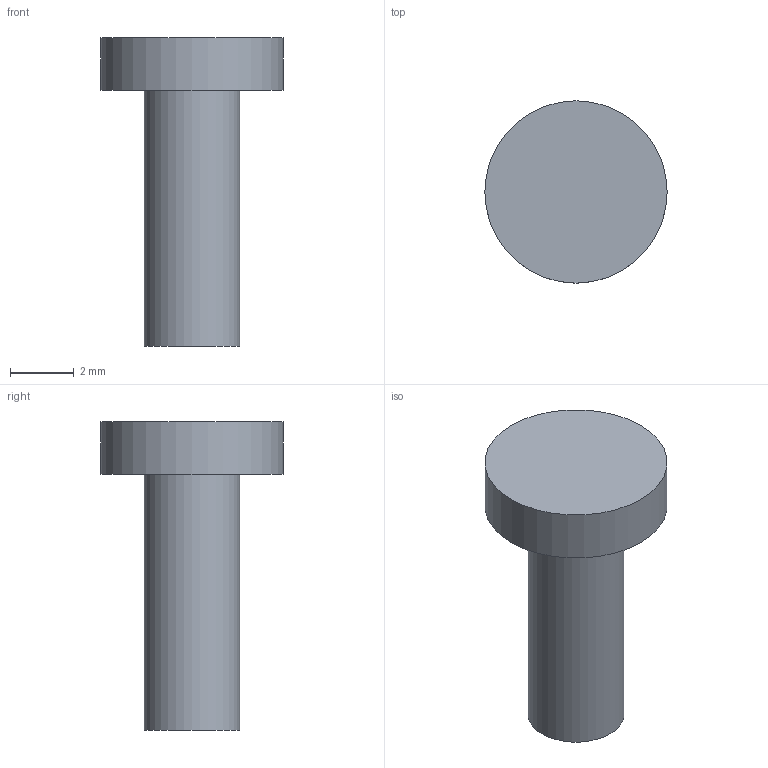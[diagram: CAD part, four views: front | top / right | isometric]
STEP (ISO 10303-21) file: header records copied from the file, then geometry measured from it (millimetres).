
FILE_DESCRIPTION(('Open CASCADE Model'),'2;1');
FILE_NAME('Open CASCADE Shape Model','2026-11-23T18:10:08',('Author'),( 'Open CASCADE'),'Open CASCADE STEP processor 8.0','build123d', 'Unknown');
FILE_SCHEMA(('AUTOMOTIVE_DESIGN { 1 0 10303 214 1 1 1 1 }'));
Length unit declared in the file: millimetre
Products named in the file (2): =>[0:1:1:2]; SOLID
Assembly tree (1 placements, depth 2):
  =>[0:1:1:2]
    SOLID
Bounding box: 5.7 x 5.7 x 9.65 mm (x, y, z)
Volume: 98.7 mm3; surface area: 156 mm2
Topology: 1 solids, 1 shells, 5 faces, 6 edges, 4 vertices
Faces by surface type: plane 3, cylinder 2
Full cylindrical faces by diameter (mm): 3 x1, 5.7 x1
Entity records: 210 total; most frequent: DIRECTION 36, CARTESIAN_POINT 29, ORIENTED_EDGE 12, PCURVE 12, DEFINITIONAL_REPRESENTATION 12, AXIS2_PLACEMENT_3D 11, LINE 10, VECTOR 10
